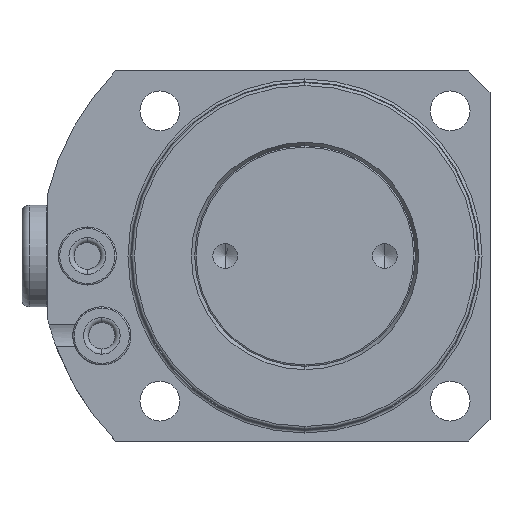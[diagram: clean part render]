
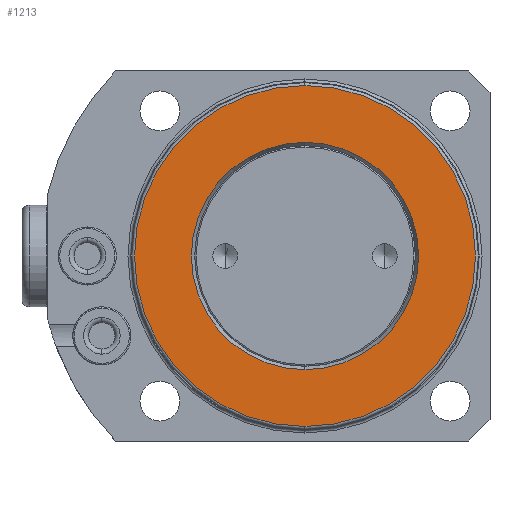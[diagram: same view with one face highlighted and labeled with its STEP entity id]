
A CAD part, front view. The second image highlights one B-rep face of the part: STEP entity #1213.
In plain terms, the highlighted planar face has unit normal (0, -1, 0).
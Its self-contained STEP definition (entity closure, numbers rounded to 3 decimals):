
#459=PLANE('',#4799);
#550=FACE_BOUND('',#1794,.T.);
#551=FACE_BOUND('',#1795,.T.);
#1213=ADVANCED_FACE('',(#550,#551),#459,.F.);
#1794=EDGE_LOOP('',(#2658,#2659));
#1795=EDGE_LOOP('',(#2660,#2661));
#2658=ORIENTED_EDGE('',*,*,#3752,.F.);
#2659=ORIENTED_EDGE('',*,*,#3880,.F.);
#2660=ORIENTED_EDGE('',*,*,#3757,.T.);
#2661=ORIENTED_EDGE('',*,*,#3879,.T.);
#3298=VERTEX_POINT('',#7552);
#3299=VERTEX_POINT('',#7553);
#3302=VERTEX_POINT('',#7561);
#3303=VERTEX_POINT('',#7563);
#3752=EDGE_CURVE('',#3298,#3299,#4217,.T.);
#3757=EDGE_CURVE('',#3303,#3302,#4221,.T.);
#3879=EDGE_CURVE('',#3302,#3303,#4293,.T.);
#3880=EDGE_CURVE('',#3299,#3298,#4294,.T.);
#4217=CIRCLE('',#4678,23.5);
#4221=CIRCLE('',#4683,15.662);
#4293=CIRCLE('',#4796,15.662);
#4294=CIRCLE('',#4798,23.5);
#4678=AXIS2_PLACEMENT_3D('',#7551,#5681,#5682);
#4683=AXIS2_PLACEMENT_3D('',#7562,#5692,#5693);
#4796=AXIS2_PLACEMENT_3D('',#7916,#5951,#5952);
#4798=AXIS2_PLACEMENT_3D('',#7918,#5955,#5956);
#4799=AXIS2_PLACEMENT_3D('',#7919,#5957,#5958);
#5681=DIRECTION('',(0.,1.,0.));
#5682=DIRECTION('',(0.,0.,1.));
#5692=DIRECTION('',(0.,1.,0.));
#5693=DIRECTION('',(0.,0.,1.));
#5951=DIRECTION('',(0.,1.,0.));
#5952=DIRECTION('',(0.,0.,1.));
#5955=DIRECTION('',(0.,1.,0.));
#5956=DIRECTION('',(0.,0.,1.));
#5957=DIRECTION('',(0.,1.,0.));
#5958=DIRECTION('',(0.,0.,-1.));
#7551=CARTESIAN_POINT('',(0.,0.255,0.));
#7552=CARTESIAN_POINT('',(0.,0.255,23.5));
#7553=CARTESIAN_POINT('',(0.,0.255,-23.5));
#7561=CARTESIAN_POINT('',(0.,0.255,15.662));
#7562=CARTESIAN_POINT('',(0.,0.255,0.));
#7563=CARTESIAN_POINT('',(0.,0.255,-15.662));
#7916=CARTESIAN_POINT('',(0.,0.255,0.));
#7918=CARTESIAN_POINT('',(0.,0.255,0.));
#7919=CARTESIAN_POINT('',(23.5,0.255,0.));
